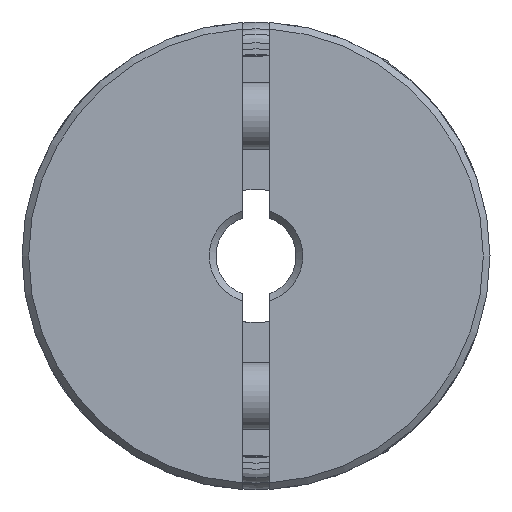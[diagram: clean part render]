
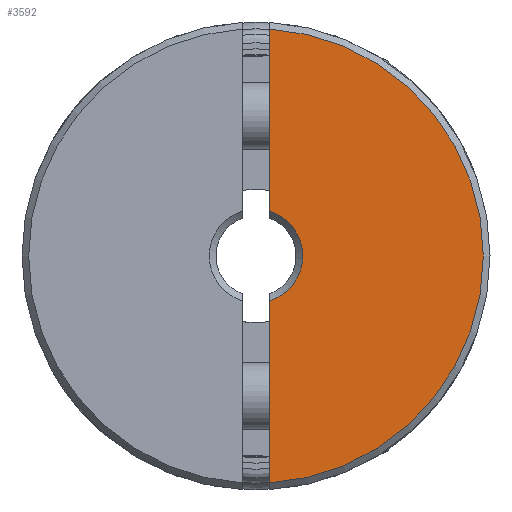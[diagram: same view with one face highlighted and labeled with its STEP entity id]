
A CAD part, left-side view. The second image highlights one B-rep face of the part: STEP entity #3592.
In plain terms, the highlighted planar face has unit normal (-1, 0, 0).
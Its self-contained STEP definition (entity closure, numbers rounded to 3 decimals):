
#132=LINE('',#6073,#280);
#140=LINE('',#6093,#288);
#280=VECTOR('',#4833,1000.);
#288=VECTOR('',#4843,1000.);
#447=PLANE('',#4020);
#932=ORIENTED_EDGE('',*,*,#1604,.T.);
#933=ORIENTED_EDGE('',*,*,#1579,.F.);
#934=ORIENTED_EDGE('',*,*,#1595,.T.);
#935=ORIENTED_EDGE('',*,*,#1614,.T.);
#1579=EDGE_CURVE('',#1977,#1975,#2291,.T.);
#1595=EDGE_CURVE('',#1977,#1992,#132,.T.);
#1604=EDGE_CURVE('',#1998,#1975,#140,.T.);
#1614=EDGE_CURVE('',#1992,#1998,#2306,.T.);
#1975=VERTEX_POINT('',#5984);
#1977=VERTEX_POINT('',#5991);
#1992=VERTEX_POINT('',#6074);
#1998=VERTEX_POINT('',#6094);
#2291=CIRCLE('',#3991,3.5);
#2306=CIRCLE('',#4018,17.);
#2651=EDGE_LOOP('',(#932,#933,#934,#935));
#3144=FACE_BOUND('',#2651,.T.);
#3592=ADVANCED_FACE('',(#3144),#447,.T.);
#3991=AXIS2_PLACEMENT_3D('',#5992,#4789,#4790);
#4018=AXIS2_PLACEMENT_3D('',#6115,#4859,#4860);
#4020=AXIS2_PLACEMENT_3D('',#6117,#4863,#4864);
#4789=DIRECTION('',(-1.,0.,0.));
#4790=DIRECTION('',(0.,1.,0.));
#4833=DIRECTION('',(0.,0.,-1.));
#4843=DIRECTION('',(0.,0.,-1.));
#4859=DIRECTION('',(-1.,0.,0.));
#4860=DIRECTION('',(0.,1.,0.));
#4863=DIRECTION('',(-1.,0.,0.));
#4864=DIRECTION('',(0.,1.,0.));
#5984=CARTESIAN_POINT('',(-428.,-1.,3.354));
#5991=CARTESIAN_POINT('',(-428.,-1.,-3.354));
#5992=CARTESIAN_POINT('',(-428.,0.,0.));
#6073=CARTESIAN_POINT('',(-428.,-1.,-17.5));
#6074=CARTESIAN_POINT('',(-428.,-1.,-16.971));
#6093=CARTESIAN_POINT('',(-428.,-1.,-17.5));
#6094=CARTESIAN_POINT('',(-428.,-1.,16.971));
#6115=CARTESIAN_POINT('',(-428.,0.,0.));
#6117=CARTESIAN_POINT('',(-428.,0.,-17.5));
